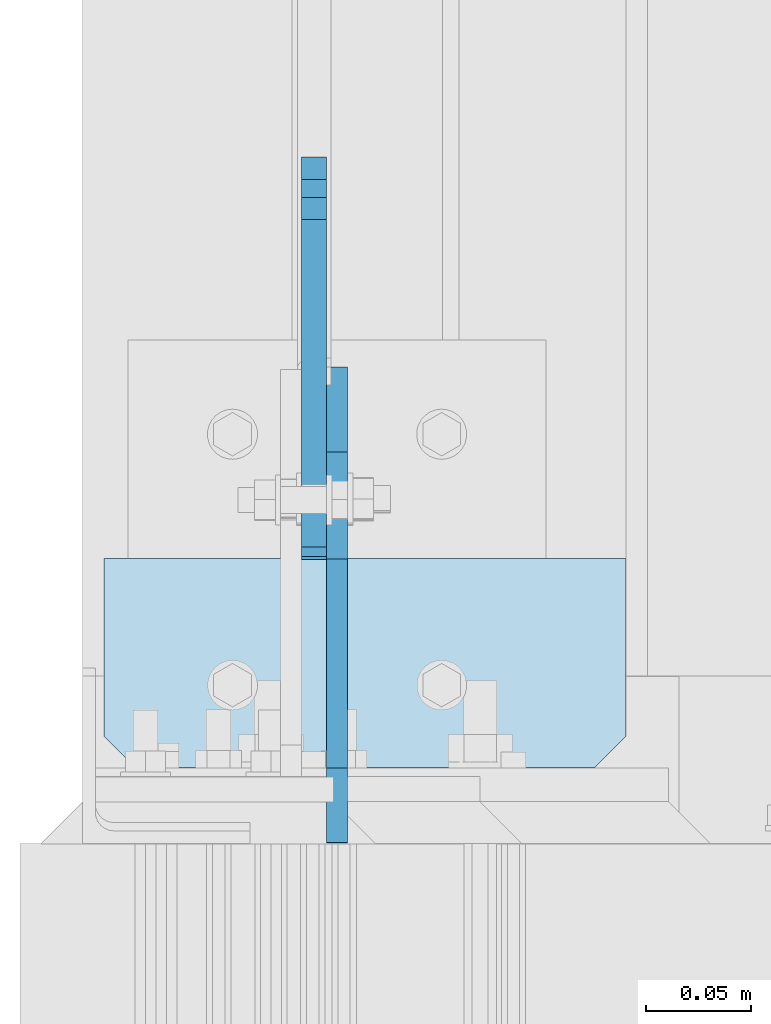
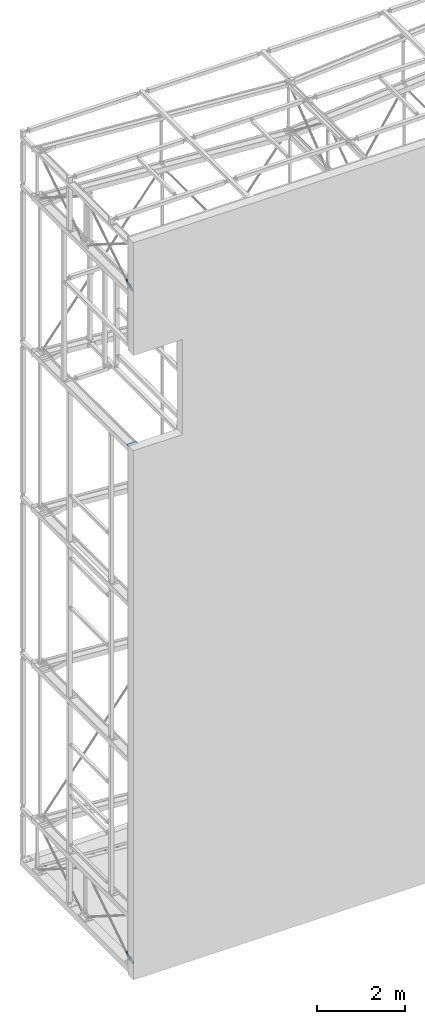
# One storey, part 96 of 271: 5 plates, 5 elements without a shape of their own.
"""IFC2X3 building model written with IfcOpenShell, lengths in millimetres."""

from ifc_helpers import new_model, si_unit, frame, origin_with_axes, place, context, subcontext, project, spatial, polyline, outline, extrude, material, type_object, element, aggregate, save


model = new_model("IFC2X3")

# Units and contexts
model_context = context("Model", 3, precision=1e-05, world=origin_with_axes())
body_context = subcontext(model_context, "Body", "Model", "MODEL_VIEW")
ifc_project = project(units=[si_unit("LENGTHUNIT", "METRE", prefix="MILLI"), si_unit("AREAUNIT", "SQUARE_METRE"), si_unit("VOLUMEUNIT", "CUBIC_METRE"), si_unit("MASSUNIT", "GRAM", prefix="KILO"), si_unit("TIMEUNIT", "SECOND"), si_unit("PLANEANGLEUNIT", "RADIAN"), si_unit("SOLIDANGLEUNIT", "STERADIAN"), si_unit("THERMODYNAMICTEMPERATUREUNIT", "DEGREE_CELSIUS"), si_unit("LUMINOUSINTENSITYUNIT", "LUMEN")], contexts=[model_context])

# Site, building, storey
site_placement = place(None, origin_with_axes())
site = spatial("IfcSite", under=ifc_project, at=site_placement, Name="Undefined", CompositionType="ELEMENT")
building_placement = place(site_placement, origin_with_axes())
building = spatial("IfcBuilding", under=site, at=building_placement, Name="Undefined", CompositionType="ELEMENT")
storey_placement = place(building_placement, origin_with_axes())
storey = spatial("IfcBuildingStorey", under=building, at=storey_placement, Name="Undefined", CompositionType="ELEMENT", Elevation=0.0)

# Assembly, plate
assembly_1_placement = place(storey_placement, origin_with_axes())
assembly_1 = element("IfcElementAssembly", 1, at=assembly_1_placement, inside=storey, AssemblyPlace="NOTDEFINED", PredefinedType="RIGID_FRAME")
ifc_material = material(Name="STEEL/S355JR")
plate_type_1 = type_object("IfcPlateType", Name="BL12*56", PredefinedType="NOTDEFINED")
plate_1_placement = place(assembly_1_placement, frame((99.0000000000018, 169.927928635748, 47.4258394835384), z_axis=(-1.0, 0.0, 1.38777878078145e-17), x_axis=(0.0, -0.976574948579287, 0.215177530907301)))
plate_1 = element("IfcPlate", 2, at=plate_1_placement, type_object=plate_type_1, material=ifc_material, Name="BLACHA", ObjectType="BL12*56", context=body_context, shape_type="SweptSolid", body=[
    extrude(outline(polyline([(0.0, 0.0), (21.2132034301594, 1.09139364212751e-11), (39.5979804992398, 18.3847751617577), (39.5979804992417, 39.5979804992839), (-91.2167739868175, 170.412734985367), (-105.358909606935, 156.270599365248), (-34.6482315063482, 85.5599212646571), (-45.9619407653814, 74.2462158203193), (-116.672622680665, 144.95689392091), (-130.814758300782, 130.814758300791), (0.0, 0.0)])), frame((0.0, 0.0, -6.0), z_axis=(0.0, 0.0, 1.0), x_axis=(1.0, 0.0, 0.0)), (0.0, 0.0, 1.0), 12.0),
])
aggregate(assembly_1, [plate_1])

assembly_2_placement = place(storey_placement, origin_with_axes())
assembly_2 = element("IfcElementAssembly", 3, at=assembly_2_placement, inside=storey, AssemblyPlace="NOTDEFINED", PredefinedType="RIGID_FRAME")
plate_2_placement = place(assembly_2_placement, frame((98.999999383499, 170.974664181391, 18705.6475011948), z_axis=(-1.0, 0.0, 1.38777878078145e-17), x_axis=(0.0, -0.975225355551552, 0.221213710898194)))
plate_2 = element("IfcPlate", 4, at=plate_2_placement, type_object=plate_type_1, material=ifc_material, Name="BLACHA", ObjectType="BL12*56", context=body_context, shape_type="SweptSolid", body=[
    extrude(outline(polyline([(0.0, 0.0), (21.2132034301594, 1.09139364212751e-11), (39.5979804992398, 18.3847751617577), (39.5979804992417, 39.5979804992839), (-91.2167739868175, 170.412734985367), (-105.358909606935, 156.270599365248), (-34.6482315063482, 85.5599212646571), (-45.9619407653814, 74.2462158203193), (-116.672622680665, 144.95689392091), (-130.814758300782, 130.814758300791), (0.0, 0.0)])), frame((0.0, 0.0, -6.0), z_axis=(0.0, 0.0, 1.0), x_axis=(1.0, 0.0, 0.0)), (0.0, 0.0, 1.0), 12.0),
])
aggregate(assembly_2, [plate_2])

assembly_3_placement = place(storey_placement, origin_with_axes())
assembly_3 = element("IfcElementAssembly", 5, at=assembly_3_placement, inside=storey, AssemblyPlace="NOTDEFINED", PredefinedType="REINFORCEMENT_UNIT")
plate_type_2 = type_object("IfcPlateType", Name="BL10*135", PredefinedType="NOTDEFINED")
plate_3_placement = place(assembly_3_placement, frame((109.99999969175, 225.873597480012, 0.349999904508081), z_axis=(-1.0, 0.0, 1.38777878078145e-17), x_axis=(0.0, -1.0, 0.0)))
plate_3 = element("IfcPlate", 6, at=plate_3_placement, type_object=plate_type_2, material=ifc_material, Name="BLACHA", ObjectType="BL10*135", context=body_context, shape_type="SweptSolid", body=[
    extrude(outline(polyline([(0.0, 0.0), (226.260955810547, 5.6843418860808e-14), (226.178621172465, 64.4986227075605), (136.089590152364, 134.740892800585), (40.9175834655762, 134.997146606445), (0.0, 70.9522323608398), (0.0, 0.0)])), frame((0.0, 0.0, -5.0), z_axis=(0.0, 0.0, 1.0), x_axis=(1.0, 0.0, 0.0)), (0.0, 0.0, 1.0), 10.0),
])
aggregate(assembly_3, [plate_3])

assembly_4_placement = place(storey_placement, origin_with_axes())
assembly_4 = element("IfcElementAssembly", 7, at=assembly_4_placement, inside=storey, AssemblyPlace="NOTDEFINED", PredefinedType="RIGID_FRAME")
plate_type_3 = type_object("IfcPlateType", Name="BL4*100", PredefinedType="NOTDEFINED")
plate_4_placement = place(assembly_4_placement, frame((-1.42431389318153, 35.5676249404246, 14389.8499999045), z_axis=(0.0, 0.0, 1.0), x_axis=(0.999999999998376, -1.75799999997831e-06, -3.98000002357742e-07)))
plate_4 = element("IfcPlate", 8, at=plate_4_placement, type_object=plate_type_3, material=ifc_material, Name="BLACHA", ObjectType="BL4*100", context=body_context, shape_type="SweptSolid", body=[
    extrude(outline(polyline([(0.0, 15.0), (15.0, -1.59872115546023e-14), (234.600112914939, 4.15210976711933e-10), (249.600087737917, 15.0000000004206), (249.599945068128, 100.000000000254), (-0.000175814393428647, 99.9995574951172), (0.0, 15.0)])), frame((0.0, 0.0, -2.0), z_axis=(0.0, 0.0, 1.0), x_axis=(1.0, 0.0, 0.0)), (0.0, 0.0, 1.0), 4.0),
])
aggregate(assembly_4, [plate_4])

assembly_5_placement = place(storey_placement, origin_with_axes())
assembly_5 = element("IfcElementAssembly", 9, at=assembly_5_placement, inside=storey, AssemblyPlace="NOTDEFINED", PredefinedType="RIGID_FRAME")
plate_type_4 = type_object("IfcPlateType", Name="BL10*146", PredefinedType="NOTDEFINED")
plate_5_placement = place(assembly_5_placement, frame((109.99999969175, 227.066943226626, 18647.649999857), z_axis=(-1.0, 0.0, 1.38777878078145e-17), x_axis=(0.0, -1.0, 0.0)))
plate_5 = element("IfcPlate", 10, at=plate_5_placement, type_object=plate_type_4, material=ifc_material, Name="BLACHA", ObjectType="BL10*146", context=body_context, shape_type="SweptSolid", body=[
    extrude(outline(polyline([(0.0, 0.0), (176.741958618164, 0.0), (191.741958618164, 15.0), (191.741958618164, 75.8241729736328), (91.7419586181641, 145.824172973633), (40.5206718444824, 145.824172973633), (0.0, 81.5274047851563), (0.0, 0.0)])), frame((0.0, 0.0, -5.0), z_axis=(0.0, 0.0, 1.0), x_axis=(1.0, 0.0, 0.0)), (0.0, 0.0, 1.0), 10.0),
])
aggregate(assembly_5, [plate_5])

save(model, "model.ifc")
